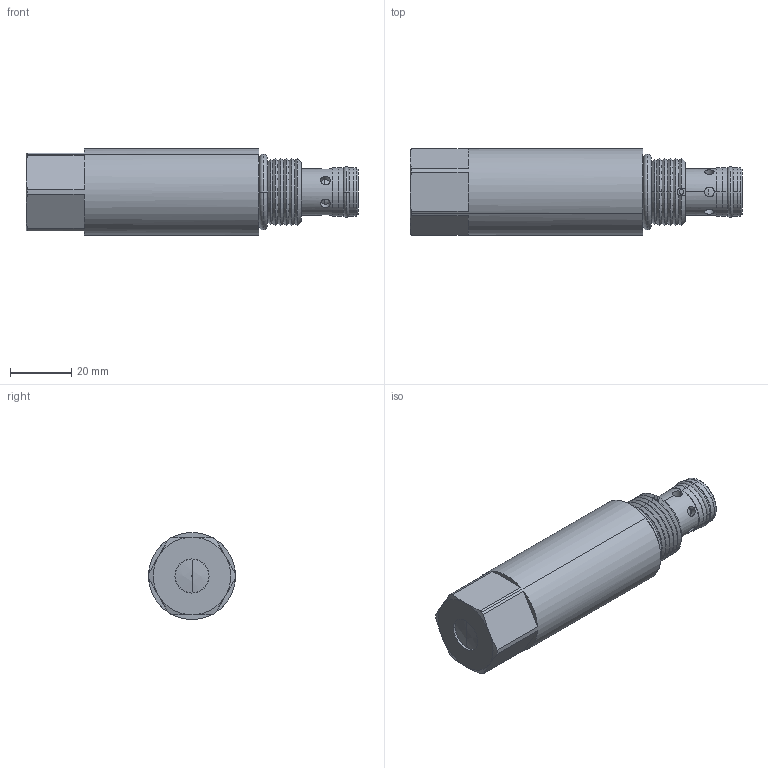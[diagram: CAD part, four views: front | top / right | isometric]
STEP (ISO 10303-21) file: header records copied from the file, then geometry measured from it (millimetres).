
FILE_DESCRIPTION((''),'2;1');
FILE_NAME('U:\Solid model CD\Solid model full\Mechanical\STEP\DERVC0T-3D Full.stp','2008-07-28T16:19:45',('Dan'),(''),'Autodesk Inventor 9','Autodesk Inventor 9','');
FILE_SCHEMA(('AUTOMOTIVE_DESIGN { 1 0 10303 214 1 1 1 1 }'));
Length unit declared in the file: inch
Products named in the file (6): DERVC0T-3D Full; DERVC0T-3D Full1; DERVC0T-3D Full2; DERVC0T-3D Full3; DERVC0T-3D Full4; DERVC0T-3D Full5
Assembly tree (5 placements, depth 2):
  DERVC0T-3D Full
    DERVC0T-3D Full1
    DERVC0T-3D Full2
    DERVC0T-3D Full3
    DERVC0T-3D Full4
    DERVC0T-3D Full5
Bounding box: 108.71 x 28.45 x 28.45 mm (x, y, z)
Volume: 54890.3 mm3; surface area: 12361.3 mm2
Topology: 5 solids, 6 shells, 134 faces, 323 edges, 200 vertices
Faces by surface type: cylinder 51, cone 38, plane 33, torus 8, sphere 2, bspline 2
Entity records: 4517 total; most frequent: CARTESIAN_POINT 1208, DIRECTION 699, ORIENTED_EDGE 644, EDGE_CURVE 322, AXIS2_PLACEMENT_3D 293, VERTEX_POINT 199, EDGE_LOOP 157, CIRCLE 150
